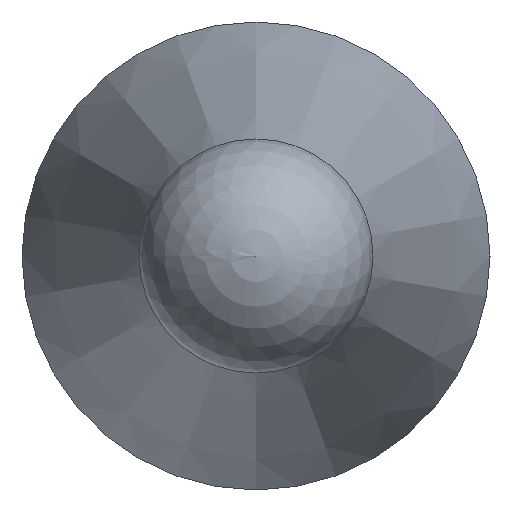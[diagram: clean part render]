
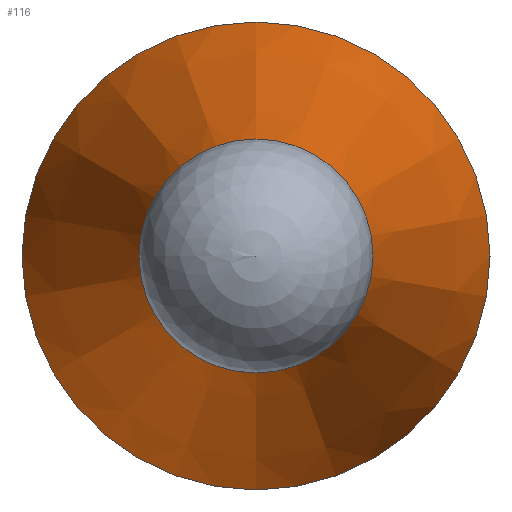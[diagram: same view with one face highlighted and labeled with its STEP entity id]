
A CAD part, left-side view. The second image highlights one B-rep face of the part: STEP entity #116.
In plain terms, the highlighted conical face has half-angle 15 degrees and reference radius 0.95 mm.
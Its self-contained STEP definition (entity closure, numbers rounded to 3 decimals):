
#100=CONICAL_SURFACE('',#182,0.95,15.);
#105=FACE_BOUND('',#130,.T.);
#106=FACE_BOUND('',#131,.T.);
#116=ADVANCED_FACE('',(#105,#106),#100,.T.);
#130=EDGE_LOOP('',(#144));
#131=EDGE_LOOP('',(#145));
#144=ORIENTED_EDGE('',*,*,#162,.T.);
#145=ORIENTED_EDGE('',*,*,#163,.F.);
#155=VERTEX_POINT('',#230);
#156=VERTEX_POINT('',#233);
#162=EDGE_CURVE('',#155,#155,#169,.T.);
#163=EDGE_CURVE('',#156,#156,#170,.T.);
#169=CIRCLE('',#179,2.);
#170=CIRCLE('',#181,0.95);
#179=AXIS2_PLACEMENT_3D('',#229,#200,#201);
#181=AXIS2_PLACEMENT_3D('',#232,#204,#205);
#182=AXIS2_PLACEMENT_3D('',#234,#206,#207);
#200=DIRECTION('',(-1.,0.,0.));
#201=DIRECTION('',(0.,0.,1.));
#204=DIRECTION('',(-1.,0.,0.));
#205=DIRECTION('',(0.,0.,1.));
#206=DIRECTION('',(1.,0.,0.));
#207=DIRECTION('',(0.,0.,-1.));
#229=CARTESIAN_POINT('',(7903.837,6103.288,0.));
#230=CARTESIAN_POINT('',(7903.837,6103.288,2.));
#232=CARTESIAN_POINT('',(7899.919,6103.288,0.));
#233=CARTESIAN_POINT('',(7899.919,6103.288,0.95));
#234=CARTESIAN_POINT('',(7899.919,6103.288,0.));
